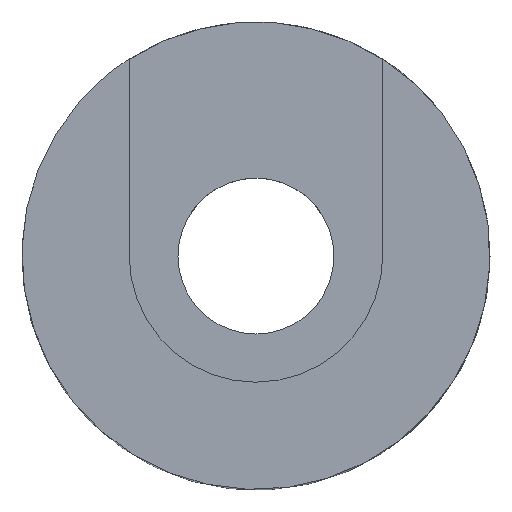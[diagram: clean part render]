
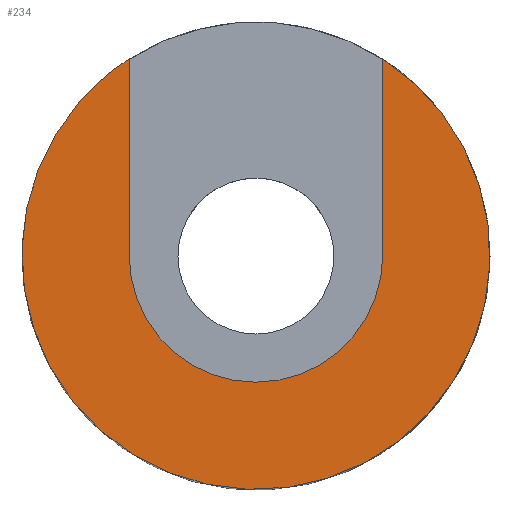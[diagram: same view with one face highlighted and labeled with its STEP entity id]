
A CAD part, top view. The second image highlights one B-rep face of the part: STEP entity #234.
In plain terms, the highlighted planar face has unit normal (0, 0, 1).
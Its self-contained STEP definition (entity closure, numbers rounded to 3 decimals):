
#8 = EDGE_CURVE ( 'NONE', #314, #100, #484, .T. ) ;
#14 = ORIENTED_EDGE ( 'NONE', *, *, #24, .T. ) ;
#18 = FACE_OUTER_BOUND ( 'NONE', #294, .T. ) ;
#24 = EDGE_CURVE ( 'NONE', #289, #430, #525, .T. ) ;
#41 = CARTESIAN_POINT ( 'NONE',  ( 3.25, 9.795, 11. ) ) ;
#100 = VERTEX_POINT ( 'NONE', #487 ) ;
#102 = AXIS2_PLACEMENT_3D ( 'NONE', #356, #345, #472 ) ;
#103 = CARTESIAN_POINT ( 'NONE',  ( -3.25, 5.044, 11. ) ) ;
#107 = ORIENTED_EDGE ( 'NONE', *, *, #152, .F. ) ;
#114 = AXIS2_PLACEMENT_3D ( 'NONE', #343, #305, #514 ) ;
#118 = CARTESIAN_POINT ( 'NONE',  ( 3.25, 5.044, 11. ) ) ;
#130 = VECTOR ( 'NONE', #331, 1000. ) ;
#152 = EDGE_CURVE ( 'NONE', #100, #430, #381, .T. ) ;
#164 = DIRECTION ( 'NONE',  ( 0., 1., 0. ) ) ;
#215 = AXIS2_PLACEMENT_3D ( 'NONE', #431, #221, #395 ) ;
#221 = DIRECTION ( 'NONE',  ( 0., 0., 1. ) ) ;
#234 = ADVANCED_FACE ( 'NONE', ( #18 ), #308, .T. ) ;
#245 = LINE ( 'NONE', #247, #130 ) ;
#247 = CARTESIAN_POINT ( 'NONE',  ( -3.25, 0., 11. ) ) ;
#278 = ORIENTED_EDGE ( 'NONE', *, *, #8, .F. ) ;
#289 = VERTEX_POINT ( 'NONE', #103 ) ;
#294 = EDGE_LOOP ( 'NONE', ( #339, #14, #107, #278 ) ) ;
#305 = DIRECTION ( 'NONE',  ( 0., 0., 1. ) ) ;
#308 = PLANE ( 'NONE',  #114 ) ;
#314 = VERTEX_POINT ( 'NONE', #362 ) ;
#331 = DIRECTION ( 'NONE',  ( 0., -1., 0. ) ) ;
#339 = ORIENTED_EDGE ( 'NONE', *, *, #509, .F. ) ;
#343 = CARTESIAN_POINT ( 'NONE',  ( 0., 0., 11. ) ) ;
#345 = DIRECTION ( 'NONE',  ( 0., 0., 1. ) ) ;
#356 = CARTESIAN_POINT ( 'NONE',  ( 0., 0., 11. ) ) ;
#362 = CARTESIAN_POINT ( 'NONE',  ( -3.25, 0., 11. ) ) ;
#381 = LINE ( 'NONE', #41, #499 ) ;
#395 = DIRECTION ( 'NONE',  ( 1., 0., 0. ) ) ;
#430 = VERTEX_POINT ( 'NONE', #118 ) ;
#431 = CARTESIAN_POINT ( 'NONE',  ( 0., 0., 11. ) ) ;
#472 = DIRECTION ( 'NONE',  ( 1., 0., 0. ) ) ;
#484 = CIRCLE ( 'NONE', #215, 3.25 ) ;
#487 = CARTESIAN_POINT ( 'NONE',  ( 3.25, 0., 11. ) ) ;
#499 = VECTOR ( 'NONE', #164, 1000. ) ;
#509 = EDGE_CURVE ( 'NONE', #289, #314, #245, .T. ) ;
#514 = DIRECTION ( 'NONE',  ( 1., 0., 0. ) ) ;
#525 = CIRCLE ( 'NONE', #102, 6. ) ;
